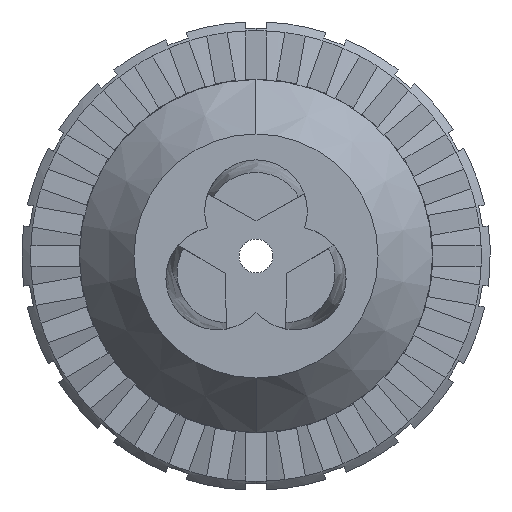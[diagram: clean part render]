
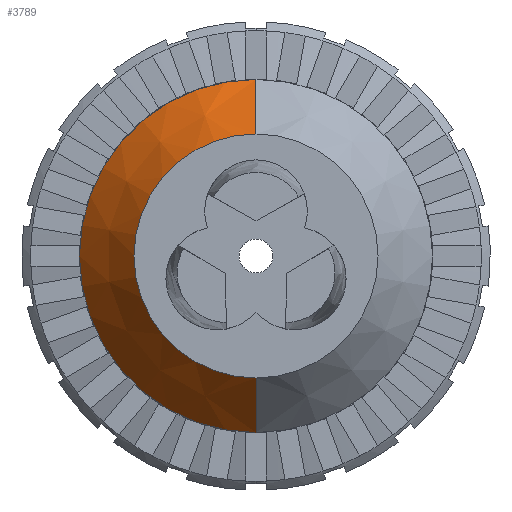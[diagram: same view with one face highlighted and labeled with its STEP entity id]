
A CAD part, left-side view. The second image highlights one B-rep face of the part: STEP entity #3789.
In plain terms, the highlighted conical face has half-angle 38.387 degrees and reference radius 19.75 mm.
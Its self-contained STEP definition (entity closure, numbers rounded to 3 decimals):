
#3598 = EDGE_CURVE ( 'NONE', #3609, #3599, #6632, .T. ) ;
#3599 = VERTEX_POINT ( 'NONE', #6627 ) ;
#3609 = VERTEX_POINT ( 'NONE', #6593 ) ;
#3676 = EDGE_CURVE ( 'NONE', #3794, #3599, #6836, .T. ) ;
#3677 = ORIENTED_EDGE ( 'NONE', *, *, #3598, .F. ) ;
#3678 = ORIENTED_EDGE ( 'NONE', *, *, #3679, .F. ) ;
#3679 = EDGE_CURVE ( 'NONE', #3793, #3609, #6827, .T. ) ;
#3789 = ADVANCED_FACE ( 'NONE', ( #6958 ), #6956, .T. ) ;
#3790 = EDGE_LOOP ( 'NONE', ( #3791, #3795, #3677, #3678 ) ) ;
#3791 = ORIENTED_EDGE ( 'NONE', *, *, #3792, .T. ) ;
#3792 = EDGE_CURVE ( 'NONE', #3793, #3794, #6957, .T. ) ;
#3793 = VERTEX_POINT ( 'NONE', #6947 ) ;
#3794 = VERTEX_POINT ( 'NONE', #6946 ) ;
#3795 = ORIENTED_EDGE ( 'NONE', *, *, #3676, .T. ) ;
#6593 = CARTESIAN_POINT ( 'NONE',  ( -156.778, 0., -19.75 ) ) ;
#6627 = CARTESIAN_POINT ( 'NONE',  ( -156.778, 0., 19.75 ) ) ;
#6628 = DIRECTION ( 'NONE',  ( 0., 0., -1. ) ) ;
#6629 = DIRECTION ( 'NONE',  ( 1., 0., 0. ) ) ;
#6630 = CARTESIAN_POINT ( 'NONE',  ( -156.778, 0., 0. ) ) ;
#6631 = AXIS2_PLACEMENT_3D ( 'NONE', #6630, #6629, #6628 ) ;
#6632 = CIRCLE ( 'NONE', #6631, 19.75 ) ;
#6824 = DIRECTION ( 'NONE',  ( 0.784, 0., -0.621 ) ) ;
#6825 = VECTOR ( 'NONE', #6824, 1000. ) ;
#6826 = CARTESIAN_POINT ( 'NONE',  ( -156.778, 0., -19.75 ) ) ;
#6827 = LINE ( 'NONE', #6826, #6825 ) ;
#6828 = DIRECTION ( 'NONE',  ( 0.784, 0., 0.621 ) ) ;
#6829 = VECTOR ( 'NONE', #6828, 1000. ) ;
#6830 = CARTESIAN_POINT ( 'NONE',  ( -156.778, 0., 19.75 ) ) ;
#6836 = LINE ( 'NONE', #6830, #6829 ) ;
#6946 = CARTESIAN_POINT ( 'NONE',  ( -164.478, 0., 13.65 ) ) ;
#6947 = CARTESIAN_POINT ( 'NONE',  ( -164.478, 0., -13.65 ) ) ;
#6948 = DIRECTION ( 'NONE',  ( 0., 0., -1. ) ) ;
#6949 = DIRECTION ( 'NONE',  ( 1., 0., 0. ) ) ;
#6950 = CARTESIAN_POINT ( 'NONE',  ( -164.478, 0., 0. ) ) ;
#6951 = AXIS2_PLACEMENT_3D ( 'NONE', #6950, #6949, #6948 ) ;
#6952 = DIRECTION ( 'NONE',  ( 0., 0., -1. ) ) ;
#6953 = DIRECTION ( 'NONE',  ( 1., 0., 0. ) ) ;
#6954 = CARTESIAN_POINT ( 'NONE',  ( -156.778, 0., 0. ) ) ;
#6955 = AXIS2_PLACEMENT_3D ( 'NONE', #6954, #6953, #6952 ) ;
#6956 = CONICAL_SURFACE ( 'NONE', #6955, 19.75, 0.67 ) ;
#6957 = CIRCLE ( 'NONE', #6951, 13.65 ) ;
#6958 = FACE_OUTER_BOUND ( 'NONE', #3790, .T. ) ;
